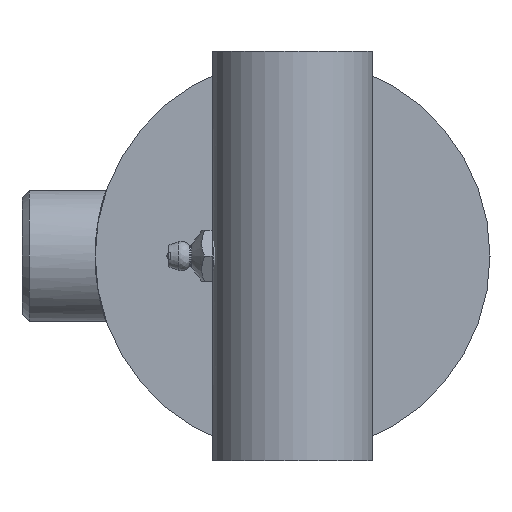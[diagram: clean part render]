
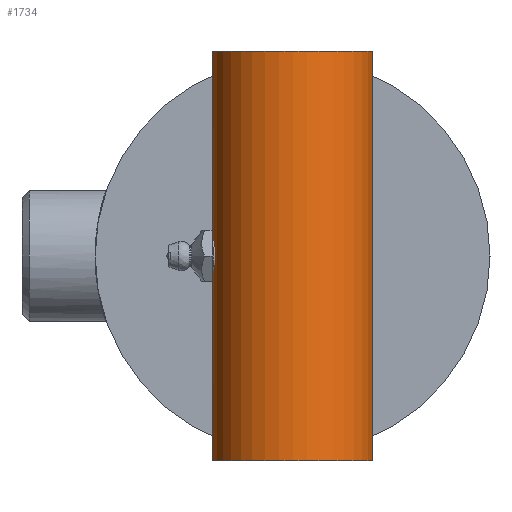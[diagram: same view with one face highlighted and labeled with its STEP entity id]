
A CAD part, left-side view. The second image highlights one B-rep face of the part: STEP entity #1734.
In plain terms, the highlighted cylindrical face has radius 17.462 mm (diameter 34.925 mm), a full revolution.
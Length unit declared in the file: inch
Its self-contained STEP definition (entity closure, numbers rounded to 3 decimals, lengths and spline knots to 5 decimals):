
#1595=CARTESIAN_POINT('',(0.67335,0.13874,0.));
#1596=VERTEX_POINT('',#1595);
#1629=CARTESIAN_POINT('',(0.67336,0.13872,-0.00002));
#1630=CARTESIAN_POINT('',(0.67336,0.13872,0.00653));
#1631=CARTESIAN_POINT('',(0.6735,0.13801,0.0209));
#1632=CARTESIAN_POINT('',(0.67532,0.12914,0.05332));
#1633=CARTESIAN_POINT('',(0.67875,0.11004,0.08341));
#1634=CARTESIAN_POINT('',(0.68322,0.07964,0.11254));
#1635=CARTESIAN_POINT('',(0.68767,0.03224,0.13437));
#1636=CARTESIAN_POINT('',(0.68785,-0.05385,0.13501));
#1637=CARTESIAN_POINT('',(0.67654,-0.12466,0.08021));
#1638=CARTESIAN_POINT('',(0.67227,-0.1434,-0.00001));
#1639=CARTESIAN_POINT('',(0.67656,-0.12473,-0.08028));
#1640=CARTESIAN_POINT('',(0.68781,-0.05373,-0.13488));
#1641=CARTESIAN_POINT('',(0.68768,0.0322,-0.13442));
#1642=CARTESIAN_POINT('',(0.68322,0.07958,-0.11253));
#1643=CARTESIAN_POINT('',(0.67874,0.1101,-0.08338));
#1644=CARTESIAN_POINT('',(0.67533,0.1291,-0.05323));
#1645=CARTESIAN_POINT('',(0.6735,0.13802,-0.021));
#1646=CARTESIAN_POINT('',(0.67336,0.13872,-0.00656));
#1647=CARTESIAN_POINT('',(0.67336,0.13872,-0.00002));
#1648=B_SPLINE_CURVE_WITH_KNOTS('',3,(#1629,#1630,#1631,#1632,#1633,#1634,#1635,#1636,#1637,#1638,#1639,#1640,#1641,#1642,#1643,#1644,#1645,#1646,#1647),.UNSPECIFIED.,.T.,.U.,(4,1,1,1,1,1,1,1,1,1,1,1,1,1,1,1,4),(-2.12554,-2.04963,-1.97372,-1.89781,-1.8219,-1.67007,-1.51825,-1.2146,-1.06277,-0.91095,-0.6073,-0.45547,-0.30365,-0.22774,-0.15182,-0.07591,0.0),.UNSPECIFIED.);
#1649=EDGE_CURVE('',#1596,#1596,#1648,.T.);
#1704=CARTESIAN_POINT('',(0.0,0.0,0.0));
#1705=DIRECTION('',(0.0,0.0,1.0));
#1706=DIRECTION('',(-1.0,0.0,0.0));
#1707=AXIS2_PLACEMENT_3D('',#1704,#1705,#1706);
#1708=CYLINDRICAL_SURFACE('',#1707,0.6875);
#1709=CARTESIAN_POINT('',(0.6875,0.,1.75));
#1710=VERTEX_POINT('',#1709);
#1711=CARTESIAN_POINT('',(0.0,0.0,1.75));
#1712=DIRECTION('',(0.0,0.0,-1.0));
#1713=DIRECTION('',(-1.0,0.0,0.0));
#1714=AXIS2_PLACEMENT_3D('',#1711,#1712,#1713);
#1715=CIRCLE('',#1714,0.6875);
#1716=EDGE_CURVE('',#1710,#1710,#1715,.T.);
#1717=ORIENTED_EDGE('',*,*,#1716,.T.);
#1718=EDGE_LOOP('',(#1717));
#1719=FACE_OUTER_BOUND('',#1718,.T.);
#1720=CARTESIAN_POINT('',(0.6875,0.,-1.75));
#1721=VERTEX_POINT('',#1720);
#1722=CARTESIAN_POINT('',(0.0,0.0,-1.75));
#1723=DIRECTION('',(0.0,0.0,1.0));
#1724=DIRECTION('',(-1.0,0.0,0.0));
#1725=AXIS2_PLACEMENT_3D('',#1722,#1723,#1724);
#1726=CIRCLE('',#1725,0.6875);
#1727=EDGE_CURVE('',#1721,#1721,#1726,.T.);
#1728=ORIENTED_EDGE('',*,*,#1727,.T.);
#1729=EDGE_LOOP('',(#1728));
#1730=FACE_BOUND('',#1729,.T.);
#1731=ORIENTED_EDGE('',*,*,#1649,.F.);
#1732=EDGE_LOOP('',(#1731));
#1733=FACE_BOUND('',#1732,.T.);
#1734=ADVANCED_FACE('',(#1719,#1730,#1733),#1708,.T.);
